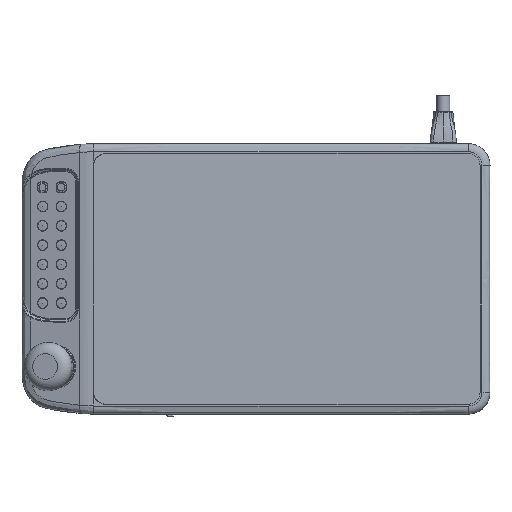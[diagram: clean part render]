
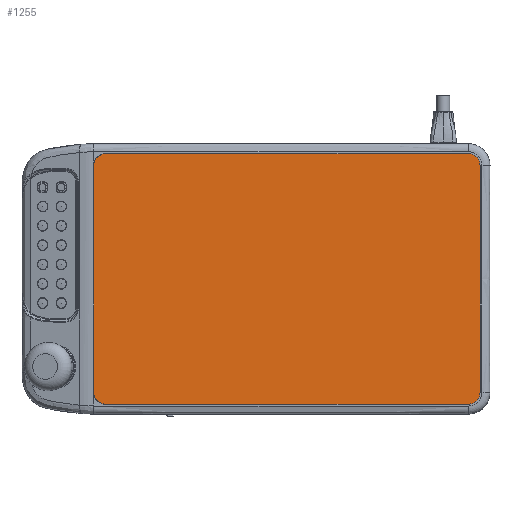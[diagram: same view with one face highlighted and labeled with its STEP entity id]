
A CAD part, top view. The second image highlights one B-rep face of the part: STEP entity #1255.
In plain terms, the highlighted planar face has unit normal (0, 0, 1).
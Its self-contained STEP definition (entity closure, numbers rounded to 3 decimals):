
#1255=ADVANCED_FACE('',(#3160),#2526,.T.);
#2526=PLANE('',#23208);
#3160=FACE_OUTER_BOUND('',#4463,.T.);
#4463=EDGE_LOOP('',(#8285,#8286,#8287,#8288,#8289,#8290,#8291,#8292));
#7283=CIRCLE('',#23204,7.3);
#7284=CIRCLE('',#23205,7.3);
#7285=CIRCLE('',#23206,7.3);
#7286=CIRCLE('',#23207,7.3);
#8285=ORIENTED_EDGE('',*,*,#17118,.T.);
#8286=ORIENTED_EDGE('',*,*,#17119,.T.);
#8287=ORIENTED_EDGE('',*,*,#17120,.T.);
#8288=ORIENTED_EDGE('',*,*,#17121,.T.);
#8289=ORIENTED_EDGE('',*,*,#17122,.T.);
#8290=ORIENTED_EDGE('',*,*,#17123,.T.);
#8291=ORIENTED_EDGE('',*,*,#17124,.F.);
#8292=ORIENTED_EDGE('',*,*,#17125,.T.);
#14852=VERTEX_POINT('',#32815);
#14853=VERTEX_POINT('',#32816);
#14854=VERTEX_POINT('',#32818);
#14855=VERTEX_POINT('',#32820);
#14856=VERTEX_POINT('',#32822);
#14857=VERTEX_POINT('',#32824);
#14858=VERTEX_POINT('',#32826);
#14859=VERTEX_POINT('',#32828);
#17118=EDGE_CURVE('',#14852,#14853,#20344,.T.);
#17119=EDGE_CURVE('',#14853,#14854,#7283,.T.);
#17120=EDGE_CURVE('',#14854,#14855,#20345,.T.);
#17121=EDGE_CURVE('',#14855,#14856,#7284,.T.);
#17122=EDGE_CURVE('',#14856,#14857,#20346,.T.);
#17123=EDGE_CURVE('',#14857,#14858,#7285,.T.);
#17124=EDGE_CURVE('',#14859,#14858,#20347,.T.);
#17125=EDGE_CURVE('',#14859,#14852,#7286,.T.);
#20344=LINE('',#32814,#21740);
#20345=LINE('',#32819,#21741);
#20346=LINE('',#32823,#21742);
#20347=LINE('',#32827,#21743);
#21740=VECTOR('',#24929,1.);
#21741=VECTOR('',#24932,1.);
#21742=VECTOR('',#24935,1.);
#21743=VECTOR('',#24938,1.);
#23204=AXIS2_PLACEMENT_3D('',#32817,#24930,#24931);
#23205=AXIS2_PLACEMENT_3D('',#32821,#24933,#24934);
#23206=AXIS2_PLACEMENT_3D('',#32825,#24936,#24937);
#23207=AXIS2_PLACEMENT_3D('',#32829,#24939,#24940);
#23208=AXIS2_PLACEMENT_3D('',#32830,#24941,#24942);
#24929=DIRECTION('',(-1.,0.,0.));
#24930=DIRECTION('',(0.,0.,1.));
#24931=DIRECTION('',(1.,0.,0.));
#24932=DIRECTION('',(0.,-1.,0.));
#24933=DIRECTION('',(0.,0.,1.));
#24934=DIRECTION('',(1.,0.,0.));
#24935=DIRECTION('',(1.,0.,0.));
#24936=DIRECTION('',(0.,0.,1.));
#24937=DIRECTION('',(1.,0.,0.));
#24938=DIRECTION('',(0.,-1.,0.));
#24939=DIRECTION('',(0.,0.,1.));
#24940=DIRECTION('',(1.,0.,0.));
#24941=DIRECTION('',(0.,0.,1.));
#24942=DIRECTION('',(-1.,0.,0.));
#32814=CARTESIAN_POINT('',(-113.7,77.8,39.8));
#32815=CARTESIAN_POINT('',(110.,77.8,39.8));
#32816=CARTESIAN_POINT('',(-115.4,77.8,39.8));
#32817=CARTESIAN_POINT('',(-115.4,70.5,39.8));
#32818=CARTESIAN_POINT('',(-122.7,70.5,39.8));
#32819=CARTESIAN_POINT('',(-122.7,-68.8,39.8));
#32820=CARTESIAN_POINT('',(-122.7,-70.5,39.8));
#32821=CARTESIAN_POINT('',(-115.4,-70.5,39.8));
#32822=CARTESIAN_POINT('',(-115.4,-77.8,39.8));
#32823=CARTESIAN_POINT('',(108.3,-77.8,39.8));
#32824=CARTESIAN_POINT('',(110.,-77.8,39.8));
#32825=CARTESIAN_POINT('',(110.,-70.5,39.8));
#32826=CARTESIAN_POINT('',(117.3,-70.5,39.8));
#32827=CARTESIAN_POINT('',(117.3,-0.02,39.8));
#32828=CARTESIAN_POINT('',(117.3,70.5,39.8));
#32829=CARTESIAN_POINT('',(110.,70.5,39.8));
#32830=CARTESIAN_POINT('',(-2.71,-0.02,39.8));
